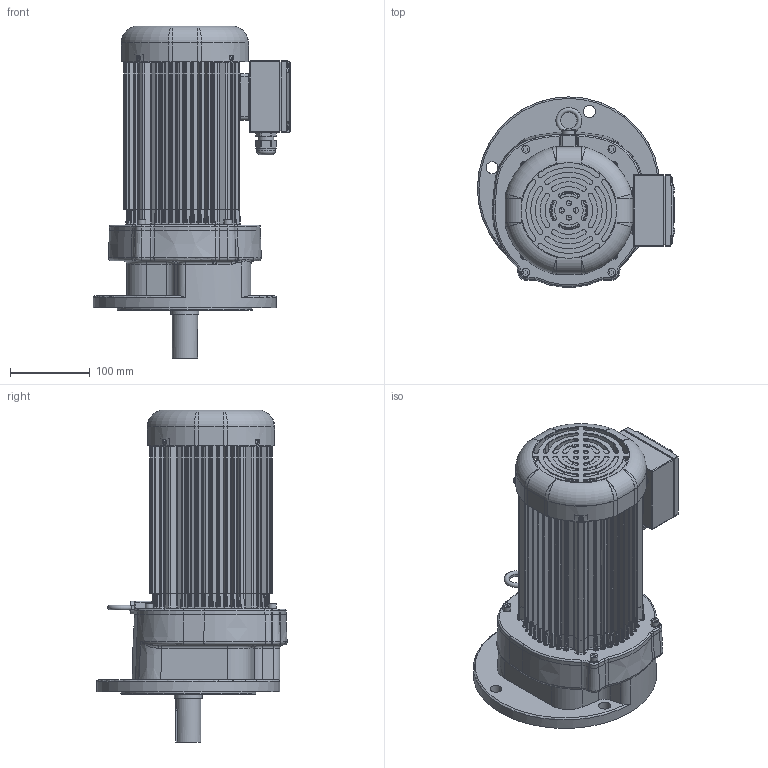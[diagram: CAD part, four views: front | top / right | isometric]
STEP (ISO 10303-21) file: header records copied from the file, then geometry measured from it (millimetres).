
FILE_DESCRIPTION(/* description */ (''),/* implementation_level */ '2;1');
FILE_NAME(/* name */ 'Z:\동력 3D 파일\PMK135-(5~100)-PA(B)075[ ]L_(3D).stp',/* time_stamp */ '2021-08-09T15:14:45+09:00',/* author */ ('jaebok'),/* organization */ (''),/* preprocessor_version */ 'ST-DEVELOPER v18.1',/* originating_system */ 'Autodesk Inventor 2022',/* authorisation */ '');
FILE_SCHEMA (('AUTOMOTIVE_DESIGN { 1 0 10303 214 3 1 1 }'));
Products named in the file (1): 부품2
Bounding box: 248 x 239.45 x 417.5 mm (x, y, z)
Volume: 2484855.1 mm3; surface area: 790558.4 mm2
Topology: 1 solids, 31 shells, 3207 faces, 8108 edges, 4822 vertices
Faces by surface type: plane 977, cylinder 896, bspline 786, torus 317, cone 123, sphere 108
Full cylindrical faces by diameter (mm): 3.25 x1, 3.5 x4, 3.6 x4, 4 x21, 4.917 x3, 5 x15, 5.5 x4, 6 x12, 6.8 x5, 7 x13, 8 x7, 9.5 x4, 10 x5, 12 x1, 12.5 x1, 15 x5, 18 x1, 20 x2, 20.6 x1, 21 x2, 22 x1, 23.6 x1, 25 x1, 28 x1, 30 x1, 32 x2, 35 x5, 36 x1, 40 x1, 42 x2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
Entity records: 128480 total; most frequent: CARTESIAN_POINT 53035, ORIENTED_EDGE 15744, DIRECTION 14130, EDGE_CURVE 7872, AXIS2_PLACEMENT_3D 5707, VERTEX_POINT 4820, EDGE_LOOP 3408, FACE_OUTER_BOUND 3207
